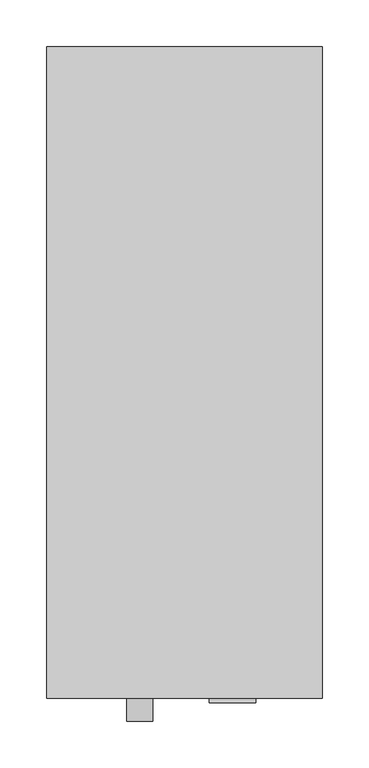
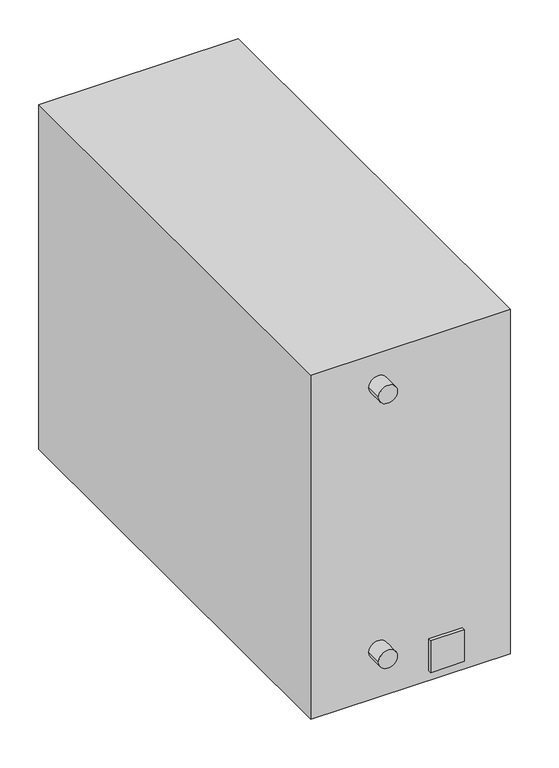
"""IFC4 building model written with IfcOpenShell, lengths in millimetres: proxy geometry, Unidade Condensadora - Sistema Split AC - 1-4 kW : Padrão."""

import ifcopenshell
import ifcopenshell.guid

model = None  # the IFC model being written
_history = None  # IfcOwnerHistory: only IFC2X3 demands one
_inside = {}  # id of a spatial element -> (the spatial element, [elements in it])
_under = {}  # id of a project, library or spatial element -> (it, [spatial elements below it])
_declared = {}  # id of a project -> (the project, [libraries it declares])
_typed = {}  # id of a type object -> (the type object, [elements of that type])
_made_of = {}  # id of a material, layer set ... -> (it, [elements and type objects made of it])


def new_model(schema):
    """Start an empty IFC model of exactly this schema.

    Asked for "IFC4X3", IfcOpenShell would pick the latest addendum, in which some entities
    have other attributes; the version numbers below select the first issue.
    IFC2X3 requires an IfcOwnerHistory on every rooted entity: one is made here for all.
    """
    global model, _history
    if schema == "IFC4X3":
        model = ifcopenshell.file(schema_version=(4, 3, 0, 0))
    else:
        model = ifcopenshell.file(schema=schema)
    _inside.clear()
    _under.clear()
    _declared.clear()
    _typed.clear()
    _made_of.clear()
    _history = None
    if model.schema == "IFC2X3":
        org = make("IfcOrganization", Name="unknown")
        user = make(
            "IfcPersonAndOrganization",
            ThePerson=make("IfcPerson", FamilyName="unknown"),
            TheOrganization=org,
        )
        app = make(
            "IfcApplication",
            ApplicationDeveloper=org,
            Version="unknown",
            ApplicationFullName="unknown",
            ApplicationIdentifier="unknown",
        )
        _history = make(
            "IfcOwnerHistory",
            OwningUser=user,
            OwningApplication=app,
            ChangeAction="ADDED",
            CreationDate=0,
        )
    return model


def make(cls, **values):
    """One entity of the class cls with the attributes given. An attribute that is None is left unset."""
    return model.create_entity(
        cls, **{name: value for name, value in values.items() if value is not None}
    )


def rooted(cls, **values):
    """An entity with a GlobalId (a new one), such as an element, a storey or a relation."""
    return make(cls, GlobalId=ifcopenshell.guid.new(), OwnerHistory=_history, **values)


def si_unit(unit_type, name, prefix=None):
    """IfcSIUnit, for example si_unit("LENGTHUNIT", "METRE", prefix="MILLI")."""
    return make("IfcSIUnit", UnitType=unit_type, Prefix=prefix, Name=name)


def assignment(units):
    """IfcUnitAssignment: the units of a project."""
    return None if units is None else make("IfcUnitAssignment", Units=units)


def point(xyz):
    """IfcCartesianPoint."""
    return None if xyz is None else make("IfcCartesianPoint", Coordinates=xyz)


def direction(xyz):
    """IfcDirection."""
    return None if xyz is None else make("IfcDirection", DirectionRatios=xyz)


def frame(location, z_axis=None, x_axis=None):
    """IfcAxis2Placement3D, a coordinate frame: its origin and axes. An axis left out is left unset."""
    return make(
        "IfcAxis2Placement3D",
        Location=point(location),
        Axis=direction(z_axis),
        RefDirection=direction(x_axis),
    )


def frame_2d(location, x_axis=None):
    """IfcAxis2Placement2D, a coordinate frame in the plane: its origin and x axis."""
    return make(
        "IfcAxis2Placement2D", Location=point(location), RefDirection=direction(x_axis)
    )


def origin():
    """The frame at (0, 0, 0) with its axes left unset."""
    return frame((0.0, 0.0, 0.0))


def origin_with_axes():
    """The frame at (0, 0, 0) with the z axis (0, 0, 1) and the x axis (1, 0, 0) written out."""
    return frame((0.0, 0.0, 0.0), z_axis=(0.0, 0.0, 1.0), x_axis=(1.0, 0.0, 0.0))


def place(relative_to, where):
    """IfcLocalPlacement: puts the frame where relative to a parent placement (None: the world)."""
    return make(
        "IfcLocalPlacement", PlacementRelTo=relative_to, RelativePlacement=where
    )


def context(
    kind, dimensions, precision=None, world=None, true_north=None, identifier=None
):
    """IfcGeometricRepresentationContext, for example the 3D "Model" context."""
    return make(
        "IfcGeometricRepresentationContext",
        ContextIdentifier=identifier,
        ContextType=kind,
        CoordinateSpaceDimension=dimensions,
        Precision=precision,
        WorldCoordinateSystem=world,
        TrueNorth=true_north,
    )


def project(units=None, contexts=None):
    """IfcProject with its units and contexts."""
    return rooted(
        "IfcProject",
        Name="project",
        RepresentationContexts=contexts,
        UnitsInContext=assignment(units),
    )


def spatial(cls, under=None, at=None, **own):
    """A site, building, storey or space (cls), placed at a placement, below another one or the project."""
    s = rooted(cls, ObjectPlacement=at, **own)
    if under is not None:
        _under.setdefault(under.id(), (under, []))[1].append(s)
    return s


def polyline(points):
    """IfcPolyline through the points."""
    return make("IfcPolyline", Points=[point(p) for p in points])


def circle_curve(where, radius):
    """IfcCircle in the frame where."""
    return make("IfcCircle", Position=where, Radius=radius)


def trimmed(basis, trim1, trim2, sense, master):
    """IfcTrimmedCurve: the piece of a basis curve between two trims."""
    return make(
        "IfcTrimmedCurve",
        BasisCurve=basis,
        Trim1=trim1,
        Trim2=trim2,
        SenseAgreement=sense,
        MasterRepresentation=master,
    )


def segment(curve, same_sense, transition):
    """IfcCompositeCurveSegment."""
    return make(
        "IfcCompositeCurveSegment",
        Transition=transition,
        SameSense=same_sense,
        ParentCurve=curve,
    )


def composite_curve(segments, self_intersect=None):
    """IfcCompositeCurve: segments joined end to end."""
    return make("IfcCompositeCurve", Segments=segments, SelfIntersect=self_intersect)


def outline(outer, holes=None, kind="AREA"):
    """IfcArbitraryClosedProfileDef: a profile drawn as a closed curve; with holes, ...WithVoids."""
    if holes is None:
        return make("IfcArbitraryClosedProfileDef", ProfileType=kind, OuterCurve=outer)
    return make(
        "IfcArbitraryProfileDefWithVoids",
        ProfileType=kind,
        OuterCurve=outer,
        InnerCurves=holes,
    )


def extrude(swept, where, along, depth):
    """IfcExtrudedAreaSolid: the profile swept, set in the frame where, extruded along a direction by depth."""
    return make(
        "IfcExtrudedAreaSolid",
        SweptArea=swept,
        Position=where,
        ExtrudedDirection=direction(along),
        Depth=depth,
    )


def shape(context_of_items, identifier, shape_type, items):
    """IfcShapeRepresentation: the items that make up one representation, for example the "Body"."""
    return make(
        "IfcShapeRepresentation",
        ContextOfItems=context_of_items,
        RepresentationIdentifier=identifier,
        RepresentationType=shape_type,
        Items=items,
    )


def source(mapping_origin, context_of_items, identifier, shape_type, items):
    """IfcRepresentationMap: a shape defined once, which mapped items show again and again."""
    return make(
        "IfcRepresentationMap",
        MappingOrigin=mapping_origin,
        MappedRepresentation=shape(context_of_items, identifier, shape_type, items),
    )


def transform(
    local_origin,
    x_axis=None,
    y_axis=None,
    z_axis=None,
    scale=None,
    scale2=None,
    scale3=None,
    uniform=True,
):
    """IfcCartesianTransformationOperator3D, or its non-uniform kind. x_axis, y_axis, z_axis: its Axis1, 2, 3."""
    if uniform:
        return make(
            "IfcCartesianTransformationOperator3D",
            Axis1=direction(x_axis),
            Axis2=direction(y_axis),
            LocalOrigin=point(local_origin),
            Scale=scale,
            Axis3=direction(z_axis),
        )
    return make(
        "IfcCartesianTransformationOperator3DnonUniform",
        Axis1=direction(x_axis),
        Axis2=direction(y_axis),
        LocalOrigin=point(local_origin),
        Scale=scale,
        Axis3=direction(z_axis),
        Scale2=scale2,
        Scale3=scale3,
    )


def mapped(mapping_source, mapping_target):
    """IfcMappedItem: shows the shape of a source again, moved by a transform."""
    return make(
        "IfcMappedItem", MappingSource=mapping_source, MappingTarget=mapping_target
    )


def made_of(thing, what):
    """Note that an element or type object is made of a material, layer set ...; save() writes the relation."""
    if what is not None:
        _made_of.setdefault(what.id(), (what, []))[1].append(thing)
    return thing


def element(
    cls,
    number,
    at=None,
    inside=None,
    cuts=None,
    type_object=None,
    material=None,
    context=None,
    identifier="Body",
    shape_type=None,
    held_by="IfcProductDefinitionShape",
    body=None,
    shapes=None,
    **own,
):
    """One element of the class cls, such as IfcWall. Its Tag is "e" and its number.

    at: its placement. inside: the storey or other place that contains it. cuts: it is an
    opening in that element (IfcRelVoidsElement). A single representation is given by context,
    identifier, shape_type and body (its items); several are given by shapes. held_by: the class
    of the entity that holds the representations. save() writes the other relations.
    """
    e = rooted(cls, Tag="e%d" % number, ObjectPlacement=at, **own)
    if body is not None:
        shapes = [shape(context, identifier, shape_type, body)]
    if shapes is not None:
        e.Representation = make(held_by, Representations=shapes)
    if inside is not None:
        _inside.setdefault(inside.id(), (inside, []))[1].append(e)
    if cuts is not None:
        rooted(
            "IfcRelVoidsElement", RelatingBuildingElement=cuts, RelatedOpeningElement=e
        )
    if type_object is not None:
        _typed.setdefault(type_object.id(), (type_object, []))[1].append(e)
    return made_of(e, material)


def aggregate(whole, parts):
    """IfcRelAggregates: a whole, such as a stair, and the parts it consists of."""
    return rooted("IfcRelAggregates", RelatingObject=whole, RelatedObjects=parts)


def save(model, path):
    """Write the relations noted so far, then the file.

    IfcRelAggregates (storeys below a building ...), IfcRelContainedInSpatialStructure (elements
    in a storey), IfcRelDefinesByType, IfcRelAssociatesMaterial and IfcRelDeclares: one each for
    every whole, place, type object, material and project.
    """
    for whole, parts in _under.values():
        aggregate(whole, parts)
    for where, things in _inside.values():
        rooted(
            "IfcRelContainedInSpatialStructure",
            RelatedElements=things,
            RelatingStructure=where,
        )
    for kind, things in _typed.values():
        rooted("IfcRelDefinesByType", RelatedObjects=things, RelatingType=kind)
    for what, things in _made_of.values():
        rooted("IfcRelAssociatesMaterial", RelatedObjects=things, RelatingMaterial=what)
    for by, libraries in _declared.values():
        rooted("IfcRelDeclares", RelatingContext=by, RelatedDefinitions=libraries)
    model.write(path)


def mechanical_equipment_373eb770(model_context):
    return source(origin(), model_context, "Body", "SweptSolid", [
        extrude(outline(composite_curve([segment(trimmed(circle_curve(frame_2d((75.0, 100.0)), 14.0), [point((75.0, 86.0))], [point((75.0, 114.0))], False, "CARTESIAN"), True, "CONTINUOUS"), segment(trimmed(circle_curve(frame_2d((75.0, 100.0)), 14.0), [point((75.0, 114.0))], [point((75.0, 86.0))], False, "CARTESIAN"), True, "CONTINUOUS")], self_intersect=False)), frame((0.0, -25.0, 0.0), z_axis=(0.0, 1.0, 0.0), x_axis=(0.0, 0.0, 1.0)), (0.0, 0.0, 1.0), 25.0),
        extrude(outline(composite_curve([segment(trimmed(circle_curve(frame_2d((491.0, 100.0)), 14.0), [point((491.0, 86.0))], [point((491.0, 114.0))], False, "CARTESIAN"), True, "CONTINUOUS"), segment(trimmed(circle_curve(frame_2d((491.0, 100.0)), 14.0), [point((491.0, 114.0))], [point((491.0, 86.0))], False, "CARTESIAN"), True, "CONTINUOUS")], self_intersect=False)), frame((0.0, -25.0, 0.0), z_axis=(0.0, 1.0, 0.0), x_axis=(0.0, 0.0, 1.0)), (0.0, 0.0, 1.0), 25.0),
        extrude(outline(polyline([(225.0, -5.0), (175.0, -5.0), (175.0, 0.0), (225.0, 0.0), (225.0, -5.0)])), frame((0.0, 0.0, 15.4465295), z_axis=(0.0, 0.0, 1.0), x_axis=(1.0, 0.0, 0.0)), (0.0, 0.0, 1.0), 50.0),
        extrude(outline(polyline([(296.0, 700.0), (296.0, 0.0), (0.0, 0.0), (0.0, 700.0), (296.0, 700.0)])), origin_with_axes(), (0.0, 0.0, 1.0), 541.0),
    ])


if __name__ == "__main__":
    model = new_model("IFC4")
    model_context = context("Model", 3, world=origin())
    ifc_project = project(units=[si_unit("LENGTHUNIT", "METRE", prefix="MILLI")], contexts=[model_context])
    site = spatial("IfcSite", under=ifc_project)
    building = spatial("IfcBuilding", under=site)
    placement = place(None, origin())
    mechanical_equipment_shape = mechanical_equipment_373eb770(model_context)
    element("IfcBuildingElementProxy", 1, Name="Unidade Condensadora - Sistema Split AC - 1-4 kW : Padrão", ObjectType="Unidade Condensadora - Sistema Split AC - 1-4 kW : Padrão", at=placement, inside=building, context=model_context, shape_type="MappedRepresentation", body=[
        mapped(mechanical_equipment_shape, transform((0.0, 0.0, 0.0), x_axis=(1.0, 0.0, 0.0), y_axis=(0.0, 1.0, 0.0), z_axis=(0.0, 0.0, 1.0))),
    ])
    save(model, "model.ifc")
